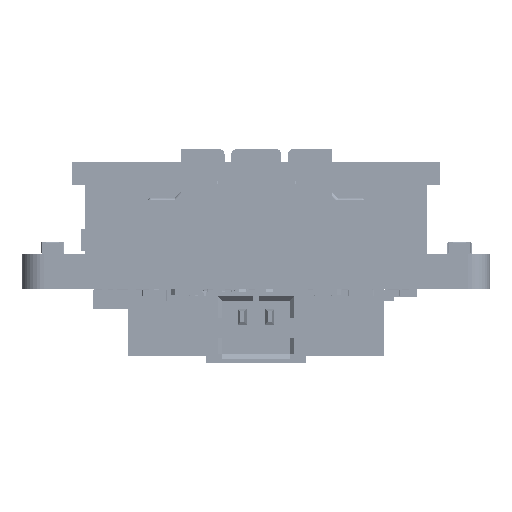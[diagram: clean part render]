
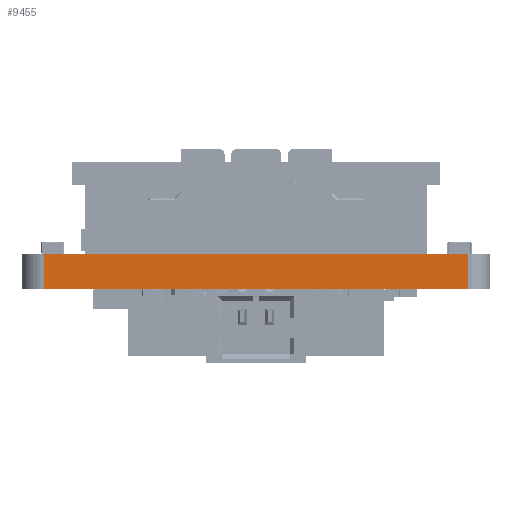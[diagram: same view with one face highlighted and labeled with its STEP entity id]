
A CAD part, front view. The second image highlights one B-rep face of the part: STEP entity #9455.
In plain terms, the highlighted planar face has unit normal (0, -1, 0).
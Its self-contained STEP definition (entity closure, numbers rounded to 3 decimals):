
#1808=DIRECTION('',(0.,0.,-1.));
#1809=VECTOR('',#1808,1.6);
#1810=CARTESIAN_POINT('',(1.,0.,1.6));
#1811=LINE('',#1810,#1809);
#2780=DIRECTION('',(1.,0.,0.));
#2781=VECTOR('',#2780,19.);
#2782=CARTESIAN_POINT('',(1.,0.,1.6));
#2783=LINE('',#2782,#2781);
#4783=DIRECTION('',(0.,0.,1.));
#4784=VECTOR('',#4783,1.6);
#4785=CARTESIAN_POINT('',(20.,0.,0.));
#4786=LINE('',#4785,#4784);
#4797=DIRECTION('',(-1.,0.,0.));
#4798=VECTOR('',#4797,19.);
#4799=CARTESIAN_POINT('',(20.,0.,0.));
#4800=LINE('',#4799,#4798);
#6260=CARTESIAN_POINT('',(20.,0.,0.));
#6261=CARTESIAN_POINT('',(20.,0.,1.6));
#6262=VERTEX_POINT('',#6260);
#6263=VERTEX_POINT('',#6261);
#6264=CARTESIAN_POINT('',(1.,0.,1.6));
#6265=CARTESIAN_POINT('',(1.,0.,0.));
#6266=VERTEX_POINT('',#6264);
#6267=VERTEX_POINT('',#6265);
#9444=CARTESIAN_POINT('',(1.,0.,0.));
#9445=DIRECTION('',(0.,1.,0.));
#9446=DIRECTION('',(1.,0.,0.));
#9447=AXIS2_PLACEMENT_3D('',#9444,#9445,#9446);
#9448=PLANE('',#9447);
#9449=ORIENTED_EDGE('',*,*,#7425,.F.);
#9450=ORIENTED_EDGE('',*,*,#7686,.T.);
#9451=ORIENTED_EDGE('',*,*,#9436,.F.);
#9452=ORIENTED_EDGE('',*,*,#6803,.T.);
#9453=EDGE_LOOP('',(#9449,#9450,#9451,#9452));
#9454=FACE_OUTER_BOUND('',#9453,.F.);
#9455=ADVANCED_FACE('',(#9454),#9448,.F.);
#6803=EDGE_CURVE('',#6262,#6267,#4800,.T.);
#7425=EDGE_CURVE('',#6266,#6267,#1811,.T.);
#7686=EDGE_CURVE('',#6266,#6263,#2783,.T.);
#9436=EDGE_CURVE('',#6262,#6263,#4786,.T.);
